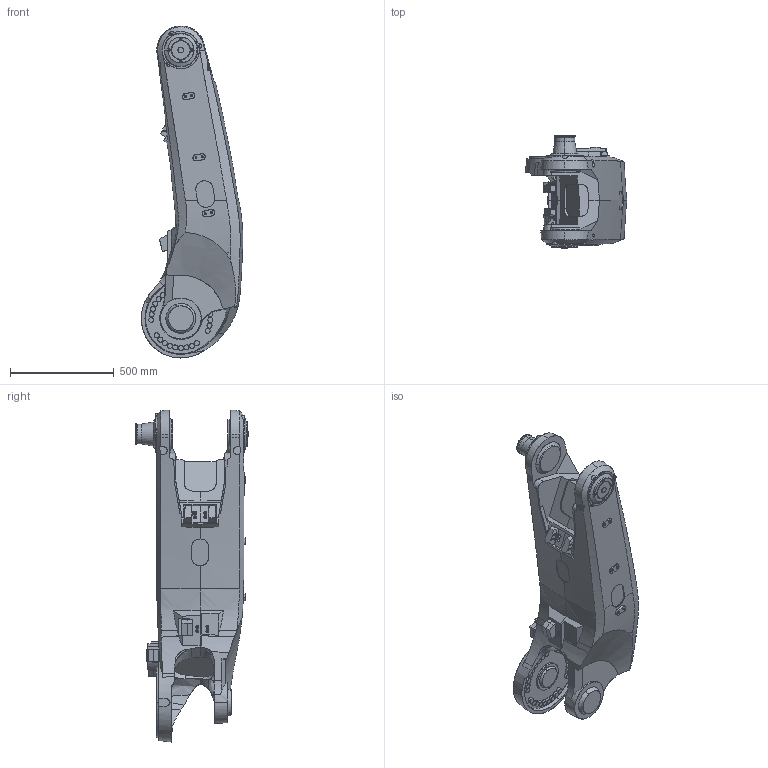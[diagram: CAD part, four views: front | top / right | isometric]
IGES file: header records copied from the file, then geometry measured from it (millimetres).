
Start section: SolidWorks IGES file using analytic representation for surfaces
Global section: file name: C:\Users\SEJAOLS6\OneDrive - ABB\Documents\SAP\7720\7720_Lightweight_models\IRB7720-MH3_510kg-330_OC_01_SW_J\IRB7710-MH3_510kg-330_OC_01_IGES_J\IRB77X0_All_OC_00_LINK02_CAD.igs; native system: SolidWorks 2024; preprocessor: SolidWorks 2024; author: SEJAOLS6; date: 260127.082609; units: millimetre
Bounding box: 489.49 x 546 x 1601.91 mm (x, y, z)
Surface area: 2622229.1 mm2 (no closed solid volume)
Topology: 0 solids, 0 shells, 798 faces, 15642 edges, 15628 vertices
Faces by surface type: bspline 467, revolution 331
